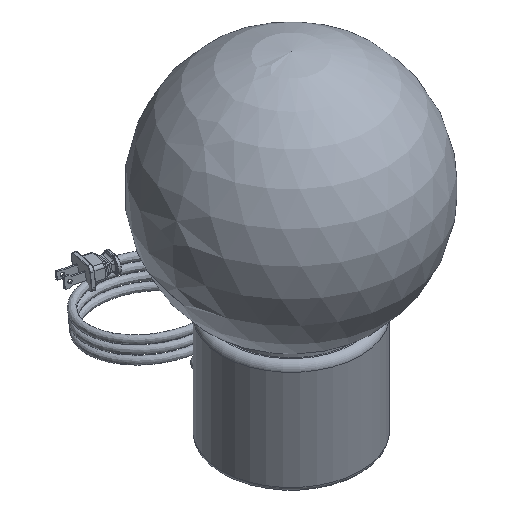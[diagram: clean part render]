
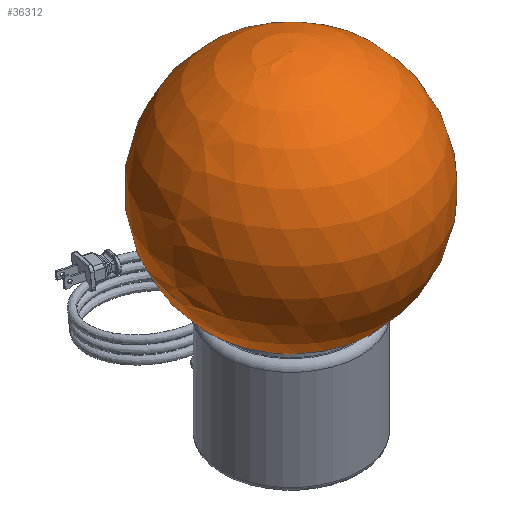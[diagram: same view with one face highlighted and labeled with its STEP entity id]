
A CAD part, isometric view. The second image highlights one B-rep face of the part: STEP entity #36312.
In plain terms, the highlighted spherical face has radius 107.95 mm.
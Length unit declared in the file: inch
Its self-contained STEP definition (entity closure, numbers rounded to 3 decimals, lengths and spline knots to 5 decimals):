
#17=SPHERICAL_SURFACE('',#38021,4.25);
#5870=FACE_OUTER_BOUND('',#8034,.T.);
#8034=EDGE_LOOP('',(#34193,#34194,#34195,#34196));
#14884=CIRCLE('',#38018,2.);
#14885=CIRCLE('',#38019,2.);
#14886=CIRCLE('',#38022,4.25);
#18356=VERTEX_POINT('',#76164);
#18357=VERTEX_POINT('',#76166);
#18358=VERTEX_POINT('',#76171);
#23636=EDGE_CURVE('',#18356,#18357,#14884,.T.);
#23637=EDGE_CURVE('',#18357,#18356,#14885,.T.);
#23638=EDGE_CURVE('',#18358,#18357,#14886,.T.);
#34193=ORIENTED_EDGE('',*,*,#23637,.F.);
#34194=ORIENTED_EDGE('',*,*,#23638,.F.);
#34195=ORIENTED_EDGE('',*,*,#23638,.T.);
#34196=ORIENTED_EDGE('',*,*,#23636,.F.);
#36312=ADVANCED_FACE('',(#5870),#17,.T.);
#38018=AXIS2_PLACEMENT_3D('',#76167,#44356,#44357);
#38019=AXIS2_PLACEMENT_3D('',#76168,#44358,#44359);
#38021=AXIS2_PLACEMENT_3D('',#76170,#44362,#44363);
#38022=AXIS2_PLACEMENT_3D('',#76172,#44364,#44365);
#44356=DIRECTION('center_axis',(0.,0.,-1.));
#44357=DIRECTION('ref_axis',(1.,0.,0.));
#44358=DIRECTION('center_axis',(0.,0.,-1.));
#44359=DIRECTION('ref_axis',(1.,0.,0.));
#44362=DIRECTION('center_axis',(0.,0.,1.));
#44363=DIRECTION('ref_axis',(1.,0.,0.));
#44364=DIRECTION('center_axis',(0.,-1.,0.));
#44365=DIRECTION('ref_axis',(-1.,0.,0.));
#76164=CARTESIAN_POINT('',(2.,0.,-3.75));
#76166=CARTESIAN_POINT('',(-2.,0.,-3.75));
#76167=CARTESIAN_POINT('Origin',(0.,0.,-3.75));
#76168=CARTESIAN_POINT('Origin',(0.,0.,-3.75));
#76170=CARTESIAN_POINT('Origin',(0.,0.,0.));
#76171=CARTESIAN_POINT('',(0.,0.,
4.25));
#76172=CARTESIAN_POINT('Origin',(0.,0.,0.));
